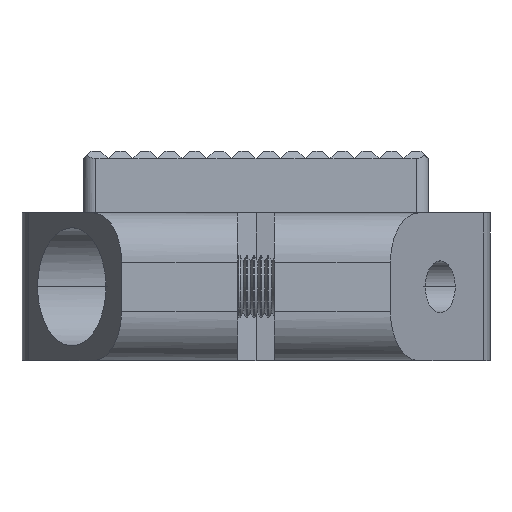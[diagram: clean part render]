
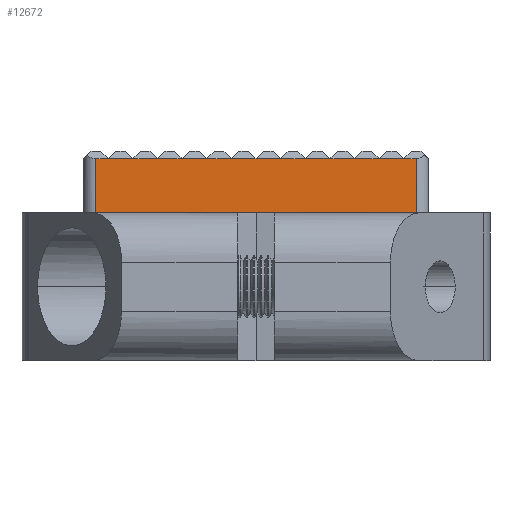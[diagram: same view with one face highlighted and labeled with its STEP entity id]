
A CAD part, front view. The second image highlights one B-rep face of the part: STEP entity #12672.
In plain terms, the highlighted planar face has unit normal (0, -1, 0).
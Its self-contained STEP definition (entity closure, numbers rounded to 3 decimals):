
#443 = LINE ( 'NONE', #13183, #27696 ) ;
#620 = DIRECTION ( 'NONE',  ( 1., 0., 0. ) ) ;
#717 = VERTEX_POINT ( 'NONE', #37823 ) ;
#788 = EDGE_CURVE ( 'NONE', #21376, #42532, #443, .T. ) ;
#958 = LINE ( 'NONE', #5809, #38684 ) ;
#1051 = DIRECTION ( 'NONE',  ( 0., 0., -1. ) ) ;
#1081 = VERTEX_POINT ( 'NONE', #20899 ) ;
#1995 = DIRECTION ( 'NONE',  ( 1., 0., 0. ) ) ;
#2034 = CARTESIAN_POINT ( 'NONE',  ( -19.387, 4.467, -22.058 ) ) ;
#2633 = ORIENTED_EDGE ( 'NONE', *, *, #23068, .F. ) ;
#2740 = VECTOR ( 'NONE', #24800, 1000. ) ;
#2915 = LINE ( 'NONE', #14125, #20723 ) ;
#3044 = EDGE_CURVE ( 'NONE', #40484, #23821, #44516, .T. ) ;
#3184 = EDGE_CURVE ( 'NONE', #39423, #44609, #15115, .T. ) ;
#3473 = DIRECTION ( 'NONE',  ( 1., 0., 0. ) ) ;
#3818 = LINE ( 'NONE', #26848, #13295 ) ;
#3831 = CARTESIAN_POINT ( 'NONE',  ( -20.388, 4.467, -22.058 ) ) ;
#4248 = DIRECTION ( 'NONE',  ( 1., 0., 0. ) ) ;
#4498 = VECTOR ( 'NONE', #17672, 1000. ) ;
#4711 = ORIENTED_EDGE ( 'NONE', *, *, #3044, .T. ) ;
#4964 = DIRECTION ( 'NONE',  ( 1., 0., 0. ) ) ;
#5386 = EDGE_CURVE ( 'NONE', #28679, #11146, #7591, .T. ) ;
#5410 = VERTEX_POINT ( 'NONE', #31536 ) ;
#5643 = LINE ( 'NONE', #28217, #4498 ) ;
#5809 = CARTESIAN_POINT ( 'NONE',  ( -22.388, 4.467, -22.058 ) ) ;
#5935 = VECTOR ( 'NONE', #3473, 1000. ) ;
#6646 = CARTESIAN_POINT ( 'NONE',  ( -22.887, 4.467, -22.058 ) ) ;
#7083 = VECTOR ( 'NONE', #620, 1000. ) ;
#7167 = VECTOR ( 'NONE', #25724, 1000. ) ;
#7446 = EDGE_CURVE ( 'NONE', #23821, #717, #31094, .T. ) ;
#7591 = LINE ( 'NONE', #45286, #34788 ) ;
#8106 = CARTESIAN_POINT ( 'NONE',  ( -13.387, 4.467, -22.058 ) ) ;
#9802 = EDGE_LOOP ( 'NONE', ( #13423, #13693, #18823, #42914, #41810, #44541, #42639, #2633, #14864, #42850, #13115, #34981, #31065, #41151, #31976, #18912, #4711 ) ) ;
#10150 = DIRECTION ( 'NONE',  ( 1., 0., 0. ) ) ;
#10458 = CARTESIAN_POINT ( 'NONE',  ( -14.388, 4.467, -22.058 ) ) ;
#11146 = VERTEX_POINT ( 'NONE', #44623 ) ;
#11525 = EDGE_CURVE ( 'NONE', #44609, #26244, #41091, .T. ) ;
#12219 = VERTEX_POINT ( 'NONE', #8106 ) ;
#12536 = CARTESIAN_POINT ( 'NONE',  ( -21.388, 4.467, -22.058 ) ) ;
#12672 = ADVANCED_FACE ( 'NONE', ( #24345 ), #26325, .T. ) ;
#12969 = CARTESIAN_POINT ( 'NONE',  ( -22.387, 4.467, -22.058 ) ) ;
#13115 = ORIENTED_EDGE ( 'NONE', *, *, #44846, .F. ) ;
#13183 = CARTESIAN_POINT ( 'NONE',  ( -17.388, 4.467, -22.058 ) ) ;
#13295 = VECTOR ( 'NONE', #1995, 1000. ) ;
#13423 = ORIENTED_EDGE ( 'NONE', *, *, #7446, .T. ) ;
#13693 = ORIENTED_EDGE ( 'NONE', *, *, #17016, .T. ) ;
#14037 = CARTESIAN_POINT ( 'NONE',  ( -3.387, 4.467, -24.258 ) ) ;
#14125 = CARTESIAN_POINT ( 'NONE',  ( -9.888, 4.467, -33.158 ) ) ;
#14140 = CARTESIAN_POINT ( 'NONE',  ( -16.388, 4.467, -22.058 ) ) ;
#14864 = ORIENTED_EDGE ( 'NONE', *, *, #23460, .F. ) ;
#15114 = CARTESIAN_POINT ( 'NONE',  ( -16.387, 4.467, -22.058 ) ) ;
#15115 = LINE ( 'NONE', #12536, #24567 ) ;
#15214 = CARTESIAN_POINT ( 'NONE',  ( -10.387, 4.467, -22.058 ) ) ;
#15676 = EDGE_CURVE ( 'NONE', #12219, #28679, #32184, .T. ) ;
#16088 = EDGE_CURVE ( 'NONE', #18173, #12219, #42066, .T. ) ;
#16271 = VECTOR ( 'NONE', #1051, 1000. ) ;
#16277 = DIRECTION ( 'NONE',  ( 1., 0., 0. ) ) ;
#16667 = LINE ( 'NONE', #43186, #7167 ) ;
#16705 = DIRECTION ( 'NONE',  ( 1., 0., 0. ) ) ;
#17016 = EDGE_CURVE ( 'NONE', #717, #5410, #2915, .T. ) ;
#17672 = DIRECTION ( 'NONE',  ( 1., 0., 0. ) ) ;
#17726 = DIRECTION ( 'NONE',  ( 1., 0., 0. ) ) ;
#18173 = VERTEX_POINT ( 'NONE', #45486 ) ;
#18339 = CARTESIAN_POINT ( 'NONE',  ( -12.387, 4.467, -22.058 ) ) ;
#18823 = ORIENTED_EDGE ( 'NONE', *, *, #41711, .F. ) ;
#18912 = ORIENTED_EDGE ( 'NONE', *, *, #25244, .F. ) ;
#19167 = EDGE_CURVE ( 'NONE', #20683, #39423, #958, .T. ) ;
#19330 = DIRECTION ( 'NONE',  ( 0., -1., 0. ) ) ;
#20050 = VERTEX_POINT ( 'NONE', #15214 ) ;
#20350 = CARTESIAN_POINT ( 'NONE',  ( -22.888, 4.467, -24.258 ) ) ;
#20633 = AXIS2_PLACEMENT_3D ( 'NONE', #40527, #19330, #44075 ) ;
#20683 = VERTEX_POINT ( 'NONE', #12969 ) ;
#20723 = VECTOR ( 'NONE', #42496, 1000. ) ;
#20899 = CARTESIAN_POINT ( 'NONE',  ( -15.387, 4.467, -22.058 ) ) ;
#21376 = VERTEX_POINT ( 'NONE', #37851 ) ;
#21577 = DIRECTION ( 'NONE',  ( 1., 0., 0. ) ) ;
#23068 = EDGE_CURVE ( 'NONE', #1081, #18173, #16667, .T. ) ;
#23460 = EDGE_CURVE ( 'NONE', #42532, #1081, #24343, .T. ) ;
#23821 = VERTEX_POINT ( 'NONE', #20350 ) ;
#24290 = VECTOR ( 'NONE', #16705, 1000. ) ;
#24343 = LINE ( 'NONE', #14140, #42042 ) ;
#24345 = FACE_OUTER_BOUND ( 'NONE', #9802, .T. ) ;
#24567 = VECTOR ( 'NONE', #16277, 1000. ) ;
#24725 = EDGE_CURVE ( 'NONE', #26244, #37471, #5643, .T. ) ;
#24800 = DIRECTION ( 'NONE',  ( 1., 0., 0. ) ) ;
#24818 = CARTESIAN_POINT ( 'NONE',  ( -22.887, 4.467, -22.058 ) ) ;
#25244 = EDGE_CURVE ( 'NONE', #40484, #20683, #33144, .T. ) ;
#25504 = CARTESIAN_POINT ( 'NONE',  ( -10.388, 4.467, -22.058 ) ) ;
#25724 = DIRECTION ( 'NONE',  ( 1., 0., 0. ) ) ;
#25750 = EDGE_CURVE ( 'NONE', #11146, #20050, #41998, .T. ) ;
#25928 = CARTESIAN_POINT ( 'NONE',  ( -22.888, 4.467, -33.158 ) ) ;
#26244 = VERTEX_POINT ( 'NONE', #2034 ) ;
#26325 = PLANE ( 'NONE',  #20633 ) ;
#26848 = CARTESIAN_POINT ( 'NONE',  ( -18.388, 4.467, -22.058 ) ) ;
#27696 = VECTOR ( 'NONE', #4964, 1000. ) ;
#27959 = CARTESIAN_POINT ( 'NONE',  ( -21.387, 4.467, -22.058 ) ) ;
#28217 = CARTESIAN_POINT ( 'NONE',  ( -19.388, 4.467, -22.058 ) ) ;
#28679 = VERTEX_POINT ( 'NONE', #18339 ) ;
#29100 = CARTESIAN_POINT ( 'NONE',  ( -13.388, 4.467, -22.058 ) ) ;
#31065 = ORIENTED_EDGE ( 'NONE', *, *, #11525, .F. ) ;
#31094 = LINE ( 'NONE', #14037, #2740 ) ;
#31536 = CARTESIAN_POINT ( 'NONE',  ( -9.888, 4.467, -22.058 ) ) ;
#31655 = VECTOR ( 'NONE', #21577, 1000. ) ;
#31683 = DIRECTION ( 'NONE',  ( 1., 0., 0. ) ) ;
#31976 = ORIENTED_EDGE ( 'NONE', *, *, #19167, .F. ) ;
#32184 = LINE ( 'NONE', #29100, #41624 ) ;
#33144 = LINE ( 'NONE', #24818, #5935 ) ;
#34788 = VECTOR ( 'NONE', #10150, 1000. ) ;
#34981 = ORIENTED_EDGE ( 'NONE', *, *, #24725, .F. ) ;
#35784 = CARTESIAN_POINT ( 'NONE',  ( -20.387, 4.467, -22.058 ) ) ;
#36943 = CARTESIAN_POINT ( 'NONE',  ( -18.387, 4.467, -22.058 ) ) ;
#37471 = VERTEX_POINT ( 'NONE', #36943 ) ;
#37747 = DIRECTION ( 'NONE',  ( 1., 0., 0. ) ) ;
#37823 = CARTESIAN_POINT ( 'NONE',  ( -9.888, 4.467, -24.258 ) ) ;
#37851 = CARTESIAN_POINT ( 'NONE',  ( -17.387, 4.467, -22.058 ) ) ;
#38684 = VECTOR ( 'NONE', #37747, 1000. ) ;
#39423 = VERTEX_POINT ( 'NONE', #27959 ) ;
#40484 = VERTEX_POINT ( 'NONE', #6646 ) ;
#40527 = CARTESIAN_POINT ( 'NONE',  ( -23.388, 4.467, -33.158 ) ) ;
#40961 = VECTOR ( 'NONE', #31683, 1000. ) ;
#41091 = LINE ( 'NONE', #3831, #31655 ) ;
#41151 = ORIENTED_EDGE ( 'NONE', *, *, #3184, .F. ) ;
#41483 = CARTESIAN_POINT ( 'NONE',  ( -11.388, 4.467, -22.058 ) ) ;
#41624 = VECTOR ( 'NONE', #4248, 1000. ) ;
#41711 = EDGE_CURVE ( 'NONE', #20050, #5410, #43715, .T. ) ;
#41810 = ORIENTED_EDGE ( 'NONE', *, *, #5386, .F. ) ;
#41998 = LINE ( 'NONE', #41483, #24290 ) ;
#42042 = VECTOR ( 'NONE', #17726, 1000. ) ;
#42066 = LINE ( 'NONE', #10458, #40961 ) ;
#42496 = DIRECTION ( 'NONE',  ( 0., 0., 1. ) ) ;
#42532 = VERTEX_POINT ( 'NONE', #15114 ) ;
#42639 = ORIENTED_EDGE ( 'NONE', *, *, #16088, .F. ) ;
#42850 = ORIENTED_EDGE ( 'NONE', *, *, #788, .F. ) ;
#42914 = ORIENTED_EDGE ( 'NONE', *, *, #25750, .F. ) ;
#43186 = CARTESIAN_POINT ( 'NONE',  ( -15.388, 4.467, -22.058 ) ) ;
#43715 = LINE ( 'NONE', #25504, #7083 ) ;
#44075 = DIRECTION ( 'NONE',  ( 1., 0., 0. ) ) ;
#44516 = LINE ( 'NONE', #25928, #16271 ) ;
#44541 = ORIENTED_EDGE ( 'NONE', *, *, #15676, .F. ) ;
#44609 = VERTEX_POINT ( 'NONE', #35784 ) ;
#44623 = CARTESIAN_POINT ( 'NONE',  ( -11.387, 4.467, -22.058 ) ) ;
#44846 = EDGE_CURVE ( 'NONE', #37471, #21376, #3818, .T. ) ;
#45286 = CARTESIAN_POINT ( 'NONE',  ( -12.388, 4.467, -22.058 ) ) ;
#45486 = CARTESIAN_POINT ( 'NONE',  ( -14.387, 4.467, -22.058 ) ) ;
